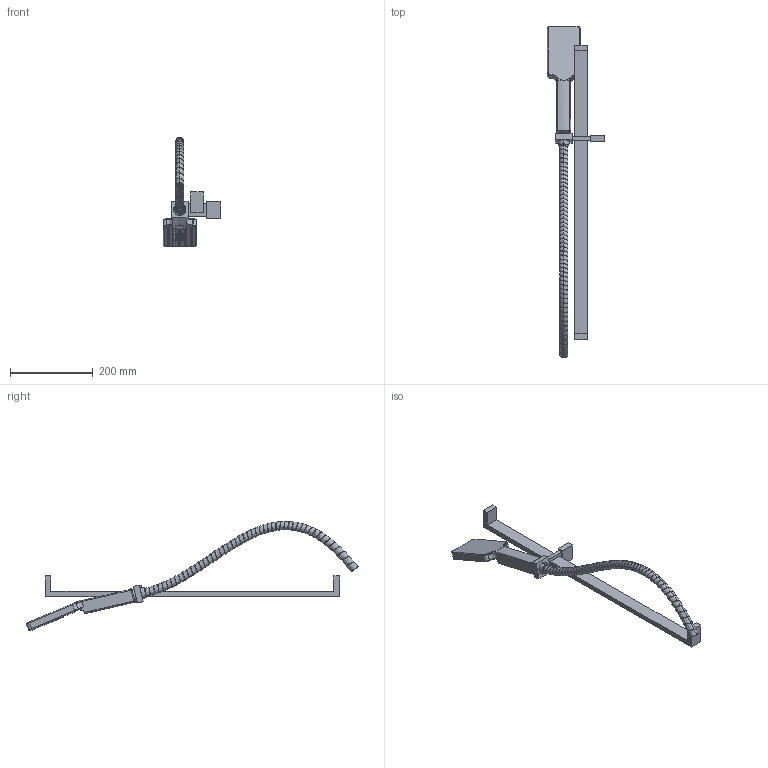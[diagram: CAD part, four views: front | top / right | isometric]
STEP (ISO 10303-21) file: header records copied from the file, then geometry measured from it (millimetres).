
FILE_DESCRIPTION (( 'STEP AP203' ), '1' );
FILE_NAME ('RVCR121.STEP', '2020-06-10T16:51:56', ( 'Andrey' ), ( '' ), 'SwSTEP 2.0', 'SolidWorks 2017', '' );
FILE_SCHEMA (( 'CONFIG_CONTROL_DESIGN' ));
Length unit declared in the file: millimetre
Products named in the file (1): RVCR121
Bounding box: 139.11 x 802.77 x 263.79 mm (x, y, z)
Volume: 903694.3 mm3; surface area: 188386.1 mm2
Topology: 2 solids, 2 shells, 465 faces, 1163 edges, 749 vertices
Faces by surface type: plane 243, bspline 132, cylinder 59, torus 21, sphere 8, cone 2
Entity records: 47814 total; most frequent: CARTESIAN_POINT 37773, ORIENTED_EDGE 2318, DIRECTION 1625, EDGE_CURVE 1159, VERTEX_POINT 749, VECTOR 617, LINE 617, EDGE_LOOP 518
